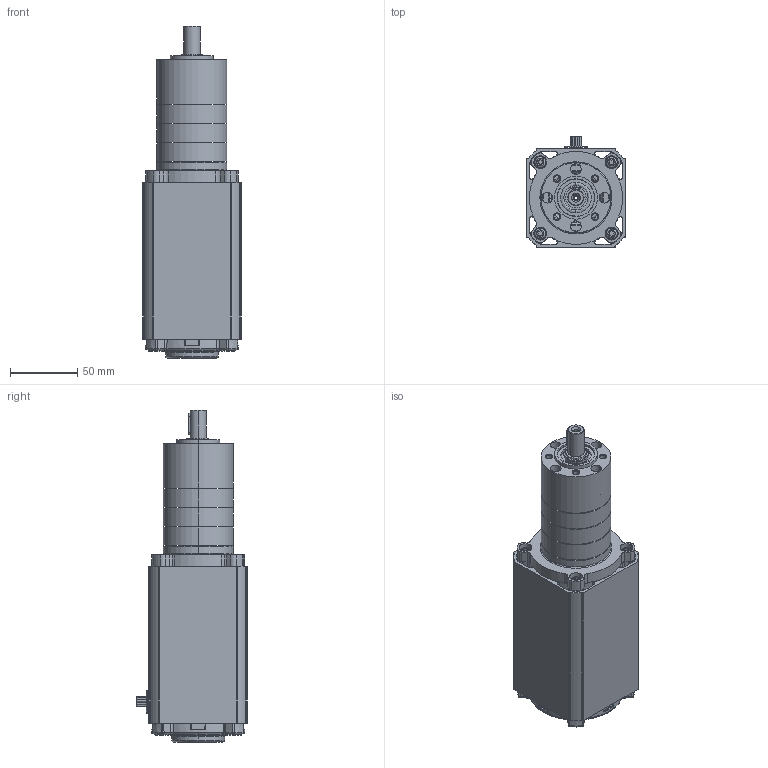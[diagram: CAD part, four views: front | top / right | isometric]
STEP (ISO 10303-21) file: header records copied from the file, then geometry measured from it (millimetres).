
FILE_DESCRIPTION (( 'STEP AP214' ), '1' );
FILE_NAME ('BL6540-PL5200i_3S.STEP', '2013-03-04T14:53:31', ( '' ), ( '' ), 'SwSTEP 2.0', 'SolidWorks 2013', '' );
FILE_SCHEMA (( 'AUTOMOTIVE_DESIGN' ));
Length unit declared in the file: inch
Products named in the file (1): BL6540-PL5200i_3S
Bounding box: 73.36 x 82.37 x 246.69 mm (x, y, z)
Surface area: 111016.8 mm2 (no closed solid volume)
Topology: 0 solids, 57 shells, 899 faces, 3137 edges, 2243 vertices
Faces by surface type: cylinder 374, plane 263, torus 100, cone 94, bspline 62, sphere 6
Entity records: 50655 total; most frequent: CARTESIAN_POINT 12562, DIRECTION 5584, ORIENTED_EDGE 5041, EDGE_CURVE 3129, VERTEX_POINT 2243, AXIS2_PLACEMENT_3D 2115, LINE 1354, VECTOR 1354
